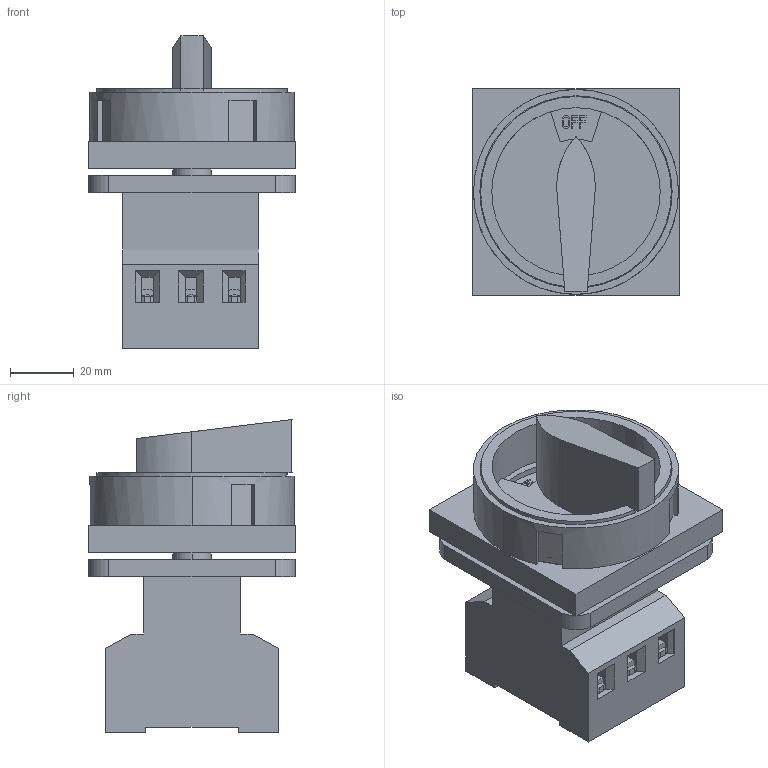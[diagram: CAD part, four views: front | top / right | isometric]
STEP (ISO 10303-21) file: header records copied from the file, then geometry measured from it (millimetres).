
FILE_DESCRIPTION((''),'2;1');
FILE_NAME('NH40-32-4-3_ASM','2021-06-16T',('wangpeng'),(''),'PRO/ENGINEER BY PARAMETRIC TECHNOLOGY CORPORATION, 2009460','PRO/ENGINEER BY PARAMETRIC TECHNOLOGY CORPORATION, 2009460','');
FILE_SCHEMA(('AUTOMOTIVE_DESIGN { 1 0 10303 214 1 1 1 1 }'));
Length unit declared in the file: millimetre
Products named in the file (5): ZJ32; CT63; DP63; LDM4; NH40-32-4-3_ASM
Assembly tree (16 placements, depth 2):
  NH40-32-4-3_ASM
    ZJ32
    CT63  x3
    DP63  x6
    LDM4  x6
Bounding box: 65 x 65 x 98.5 mm (x, y, z)
Volume: 111277.3 mm3; surface area: 73860 mm2
Topology: 16 solids, 16 shells, 823 faces, 2267 edges, 1490 vertices
Faces by surface type: plane 540, cylinder 207, bspline 56, sphere 12, cone 8
Entity records: 31560 total; most frequent: CARTESIAN_POINT 15720, ORIENTED_EDGE 3490, DIRECTION 2775, EDGE_CURVE 1745, VECTOR 1217, LINE 1217, VERTEX_POINT 1152, AXIS2_PLACEMENT_3D 779
